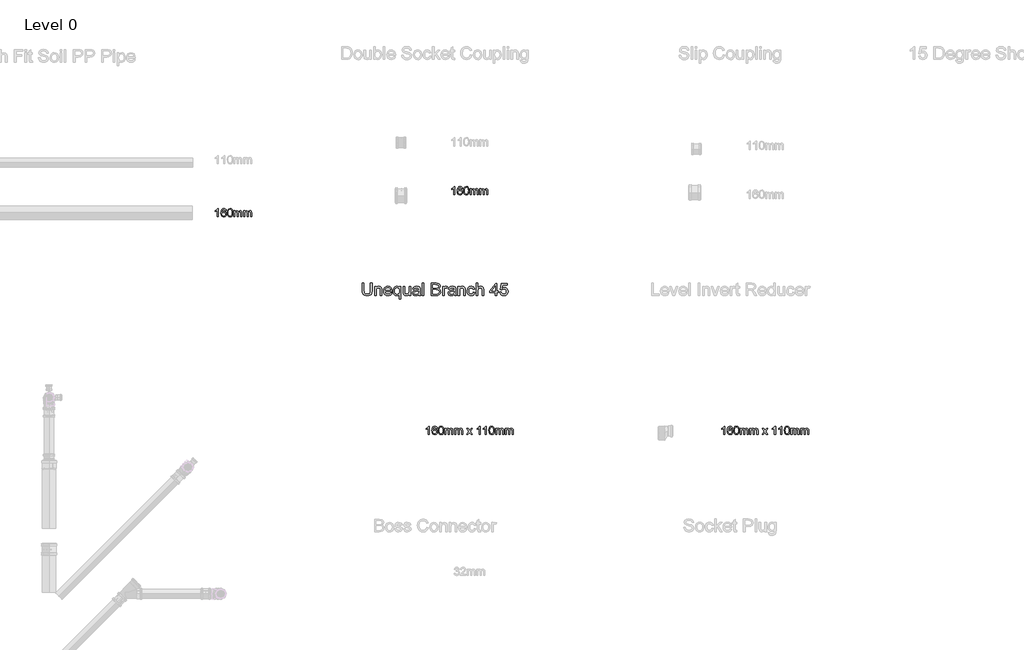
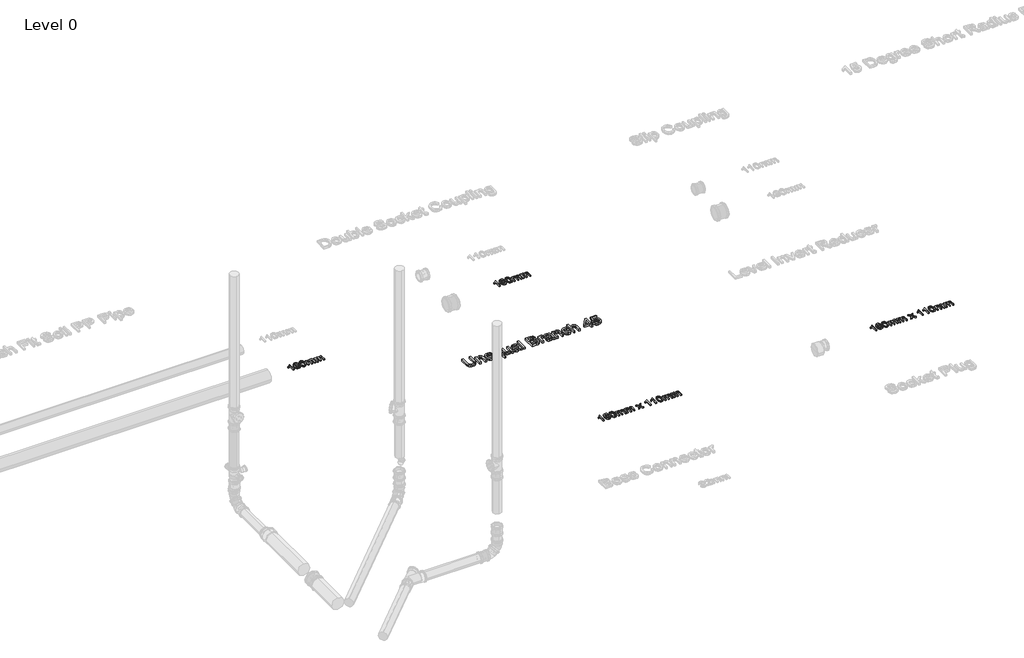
# One storey, part 4 of 15: 5 proxies.
"""IFC4 building model written with IfcOpenShell, lengths in millimetres."""

from ifc_helpers import new_model, si_unit, origin, origin_with_axes, place, context, project, spatial, polyline, outline, extrude, element, save

model = new_model("IFC4")

# Units and contexts
model_context = context("Model", 3, world=origin())
ifc_project = project(units=[si_unit("LENGTHUNIT", "METRE", prefix="MILLI")], contexts=[model_context])

# Site, building, storey
site = spatial("IfcSite", under=ifc_project)
building = spatial("IfcBuilding", under=site)
storey = spatial("IfcBuildingStorey", under=building, Name="Level 0", Elevation=0.0)

# Proxies
placement = place(None, origin())
element("IfcBuildingElementProxy", 1, Name="100mm Arial", ObjectType="100mm Arial", at=placement, inside=storey, context=model_context, shape_type="SweptSolid", body=[
    extrude(outline(polyline([(-23591.7293188, 7438.9614868), (-23604.0370111, 7438.9614868), (-23604.0370111, 7515.692256), (-23615.6956649, 7507.3869676), (-23628.6523957, 7501.1730253), (-23628.6523957, 7512.8076406), (-23610.6115303, 7524.3220637), (-23599.6620111, 7537.4230253), (-23591.7293188, 7537.4230253), (-23591.7293188, 7438.9614868)])), origin_with_axes(), (0.0, 0.0, 1.0), 15.0),
    extrude(outline(polyline([(-23499.4216264, 7511.2691791), (-23511.7293188, 7509.7307176), (-23516.3927803, 7519.9951406), (-23528.7245111, 7525.1153329), (-23539.8302803, 7522.1345637), (-23548.2317226, 7510.9446599), (-23551.7293188, 7489.0095637), (-23540.8759534, 7498.8292753), (-23527.4264341, 7502.0384099), (-23516.0562418, 7499.8449003), (-23506.5129726, 7493.2643714), (-23500.0406168, 7483.2102849), (-23497.8831649, 7470.5961022), (-23501.9456649, 7453.6129291), (-23513.1235495, 7441.5936983), (-23529.2533572, 7437.4230253), (-23543.2166986, 7440.1874483), (-23554.3374918, 7448.4807176), (-23561.6121313, 7463.1201406), (-23564.0370111, 7484.9230253), (-23561.3447034, 7509.4362464), (-23553.2677803, 7526.1970637), (-23542.2401361, 7534.6165349), (-23527.9552803, 7537.4230253), (-23517.1560014, 7535.6862464), (-23508.5081649, 7530.4759099), (-23502.4504726, 7522.2006695), (-23499.4216264, 7511.2691791)]), holes=[polyline([(-23551.7293188, 7470.7884099), (-23548.8807611, 7460.1273522), (-23541.3086457, 7452.3869676), (-23530.2148957, 7449.7307176), (-23522.0929005, 7451.1069195), (-23515.7076841, 7455.2355253), (-23511.5700639, 7461.7259099), (-23510.1908572, 7470.1874483), (-23511.5520351, 7478.3094435), (-23515.6355688, 7484.5023522), (-23530.7197034, 7489.7307176), (-23545.6115303, 7484.5023522), (-23550.1998716, 7478.4596839), (-23551.7293188, 7470.7884099)])]), origin_with_axes(), (0.0, 0.0, 1.0), 15.0),
    extrude(outline(polyline([(-23487.1139341, 7487.3989868), (-23483.4961457, 7515.7283137), (-23472.7509534, 7532.0624483), (-23454.8062418, 7537.4230253), (-23440.4312418, 7534.2499483), (-23430.5033572, 7525.1033137), (-23424.7341264, 7510.536006), (-23422.4985495, 7487.3989868), (-23426.0802803, 7459.1898522), (-23436.7894149, 7442.8196599), (-23454.8062418, 7437.4230253), (-23467.5947034, 7439.7667753), (-23477.3062418, 7446.7980253), (-23484.6620111, 7463.4506695), (-23487.1139341, 7487.3989868)]), holes=[polyline([(-23474.8062418, 7487.4230253), (-23473.3639341, 7468.0630493), (-23469.0370111, 7456.8581214), (-23462.5947034, 7451.5125685), (-23454.8062418, 7449.7307176), (-23447.0177803, 7451.5185781), (-23440.5754726, 7456.8821599), (-23436.2485495, 7468.0930974), (-23434.8062418, 7487.4230253), (-23436.2004726, 7506.3473041), (-23440.3831649, 7517.6393714), (-23446.8134534, 7523.2463426), (-23454.9504726, 7525.1153329), (-23462.6547995, 7523.4686983), (-23468.8447034, 7518.5287945), (-23473.3158572, 7506.5336022), (-23474.8062418, 7487.4230253)])]), origin_with_axes(), (0.0, 0.0, 1.0), 15.0),
    extrude(outline(polyline([(-23408.6523957, 7438.9614868), (-23408.6523957, 7511.2691791), (-23396.3447034, 7511.2691791), (-23396.3447034, 7499.3701406), (-23387.8831649, 7509.1177368), (-23375.8398957, 7512.8076406), (-23363.5081649, 7509.0456214), (-23356.7293188, 7498.504756), (-23347.1259534, 7509.2319195), (-23334.9985495, 7512.8076406), (-23325.7467466, 7511.3202608), (-23318.9047995, 7506.8581214), (-23314.6770351, 7499.3010301), (-23313.2677803, 7488.5287945), (-23313.2677803, 7438.9614868), (-23325.5754726, 7438.9614868), (-23325.5754726, 7483.2403329), (-23326.7172995, 7493.5167753), (-23330.8519149, 7498.5768714), (-23337.8831649, 7500.4999483), (-23349.9865303, 7495.5720637), (-23354.8062418, 7479.7787945), (-23354.8062418, 7438.9614868), (-23367.1139341, 7438.9614868), (-23367.1139341, 7484.6105253), (-23369.9624918, 7496.5336022), (-23379.3014341, 7500.4999483), (-23388.4120111, 7497.8557176), (-23394.4697034, 7490.1153329), (-23396.3447034, 7475.4278329), (-23396.3447034, 7438.9614868), (-23408.6523957, 7438.9614868)])), origin_with_axes(), (0.0, 0.0, 1.0), 15.0),
    extrude(outline(polyline([(-23294.8062418, 7438.9614868), (-23294.8062418, 7511.2691791), (-23282.4985495, 7511.2691791), (-23282.4985495, 7499.3701406), (-23274.0370111, 7509.1177368), (-23261.9937418, 7512.8076406), (-23249.6620111, 7509.0456214), (-23242.8831649, 7498.504756), (-23233.2797995, 7509.2319195), (-23221.1523957, 7512.8076406), (-23211.9005928, 7511.3202608), (-23205.0586457, 7506.8581214), (-23200.8308813, 7499.3010301), (-23199.4216264, 7488.5287945), (-23199.4216264, 7438.9614868), (-23211.7293188, 7438.9614868), (-23211.7293188, 7483.2403329), (-23212.8711457, 7493.5167753), (-23217.0057611, 7498.5768714), (-23224.0370111, 7500.4999483), (-23236.1403764, 7495.5720637), (-23240.960088, 7479.7787945), (-23240.960088, 7438.9614868), (-23253.2677803, 7438.9614868), (-23253.2677803, 7484.6105253), (-23256.116338, 7496.5336022), (-23265.4552803, 7500.4999483), (-23274.5658572, 7497.8557176), (-23280.6235495, 7490.1153329), (-23282.4985495, 7475.4278329), (-23282.4985495, 7438.9614868), (-23294.8062418, 7438.9614868)])), origin_with_axes(), (0.0, 0.0, 1.0), 15.0),
])
element("IfcBuildingElementProxy", 2, Name="100mm Arial", ObjectType="100mm Arial", at=placement, inside=storey, context=model_context, shape_type="SweptSolid", body=[
    extrude(outline(polyline([(-17591.7293188, 4857.7167304), (-17604.0370111, 4857.7167304), (-17604.0370111, 4934.4474996), (-17615.6956649, 4926.1422111), (-17628.6523957, 4919.9282688), (-17628.6523957, 4931.5628842), (-17610.6115303, 4943.0773073), (-17599.6620111, 4956.1782688), (-17591.7293188, 4956.1782688), (-17591.7293188, 4857.7167304)])), origin_with_axes(), (0.0, 0.0, 1.0), 15.0),
    extrude(outline(polyline([(-17499.4216264, 4930.0244227), (-17511.7293188, 4928.4859611), (-17516.3927803, 4938.7503842), (-17528.7245111, 4943.8705765), (-17539.8302803, 4940.8898073), (-17548.2317226, 4929.6999035), (-17551.7293188, 4907.7648073), (-17540.8759534, 4917.5845188), (-17527.4264341, 4920.7936535), (-17516.0562418, 4918.6001438), (-17506.5129726, 4912.019615), (-17500.0406168, 4901.9655285), (-17497.8831649, 4889.3513458), (-17501.9456649, 4872.3681727), (-17513.1235495, 4860.3489419), (-17529.2533572, 4856.1782688), (-17543.2166986, 4858.9426919), (-17554.3374918, 4867.2359611), (-17561.6121313, 4881.8753842), (-17564.0370111, 4903.6782688), (-17561.3447034, 4928.19149), (-17553.2677803, 4944.9523073), (-17542.2401361, 4953.3717785), (-17527.9552803, 4956.1782688), (-17517.1560014, 4954.44149), (-17508.5081649, 4949.2311535), (-17502.4504726, 4940.9559131), (-17499.4216264, 4930.0244227)]), holes=[polyline([(-17551.7293188, 4889.5436535), (-17548.8807611, 4878.8825958), (-17541.3086457, 4871.1422111), (-17530.2148957, 4868.4859611), (-17522.0929005, 4869.8621631), (-17515.7076841, 4873.9907688), (-17511.5700639, 4880.4811535), (-17510.1908572, 4888.9426919), (-17511.5520351, 4897.0646871), (-17515.6355688, 4903.2575958), (-17530.7197034, 4908.4859611), (-17545.6115303, 4903.2575958), (-17550.1998716, 4897.2149275), (-17551.7293188, 4889.5436535)])]), origin_with_axes(), (0.0, 0.0, 1.0), 15.0),
    extrude(outline(polyline([(-17487.1139341, 4906.1542304), (-17483.4961457, 4934.4835573), (-17472.7509534, 4950.8176919), (-17454.8062418, 4956.1782688), (-17440.4312418, 4953.0051919), (-17430.5033572, 4943.8585573), (-17424.7341264, 4929.2912496), (-17422.4985495, 4906.1542304), (-17426.0802803, 4877.9450958), (-17436.7894149, 4861.5749035), (-17454.8062418, 4856.1782688), (-17467.5947034, 4858.5220188), (-17477.3062418, 4865.5532688), (-17484.6620111, 4882.2059131), (-17487.1139341, 4906.1542304)]), holes=[polyline([(-17474.8062418, 4906.1782688), (-17473.3639341, 4886.8182929), (-17469.0370111, 4875.613365), (-17462.5947034, 4870.2678121), (-17454.8062418, 4868.4859611), (-17447.0177803, 4870.2738217), (-17440.5754726, 4875.6374035), (-17436.2485495, 4886.848341), (-17434.8062418, 4906.1782688), (-17436.2004726, 4925.1025477), (-17440.3831649, 4936.394615), (-17446.8134534, 4942.0015861), (-17454.9504726, 4943.8705765), (-17462.6547995, 4942.2239419), (-17468.8447034, 4937.2840381), (-17473.3158572, 4925.2888458), (-17474.8062418, 4906.1782688)])]), origin_with_axes(), (0.0, 0.0, 1.0), 15.0),
    extrude(outline(polyline([(-17408.6523957, 4857.7167304), (-17408.6523957, 4930.0244227), (-17396.3447034, 4930.0244227), (-17396.3447034, 4918.1253842), (-17387.8831649, 4927.8729804), (-17375.8398957, 4931.5628842), (-17363.5081649, 4927.800865), (-17356.7293188, 4917.2599996), (-17347.1259534, 4927.9871631), (-17334.9985495, 4931.5628842), (-17325.7467466, 4930.0755044), (-17318.9047995, 4925.613365), (-17314.6770351, 4918.0562736), (-17313.2677803, 4907.2840381), (-17313.2677803, 4857.7167304), (-17325.5754726, 4857.7167304), (-17325.5754726, 4901.9955765), (-17326.7172995, 4912.2720188), (-17330.8519149, 4917.332115), (-17337.8831649, 4919.2551919), (-17349.9865303, 4914.3273073), (-17354.8062418, 4898.5340381), (-17354.8062418, 4857.7167304), (-17367.1139341, 4857.7167304), (-17367.1139341, 4903.3657688), (-17369.9624918, 4915.2888458), (-17379.3014341, 4919.2551919), (-17388.4120111, 4916.6109611), (-17394.4697034, 4908.8705765), (-17396.3447034, 4894.1830765), (-17396.3447034, 4857.7167304), (-17408.6523957, 4857.7167304)])), origin_with_axes(), (0.0, 0.0, 1.0), 15.0),
    extrude(outline(polyline([(-17294.8062418, 4857.7167304), (-17294.8062418, 4930.0244227), (-17282.4985495, 4930.0244227), (-17282.4985495, 4918.1253842), (-17274.0370111, 4927.8729804), (-17261.9937418, 4931.5628842), (-17249.6620111, 4927.800865), (-17242.8831649, 4917.2599996), (-17233.2797995, 4927.9871631), (-17221.1523957, 4931.5628842), (-17211.9005928, 4930.0755044), (-17205.0586457, 4925.613365), (-17200.8308813, 4918.0562736), (-17199.4216264, 4907.2840381), (-17199.4216264, 4857.7167304), (-17211.7293188, 4857.7167304), (-17211.7293188, 4901.9955765), (-17212.8711457, 4912.2720188), (-17217.0057611, 4917.332115), (-17224.0370111, 4919.2551919), (-17236.1403764, 4914.3273073), (-17240.960088, 4898.5340381), (-17240.960088, 4857.7167304), (-17253.2677803, 4857.7167304), (-17253.2677803, 4903.3657688), (-17256.116338, 4915.2888458), (-17265.4552803, 4919.2551919), (-17274.5658572, 4916.6109611), (-17280.6235495, 4908.8705765), (-17282.4985495, 4894.1830765), (-17282.4985495, 4857.7167304), (-17294.8062418, 4857.7167304)])), origin_with_axes(), (0.0, 0.0, 1.0), 15.0),
    extrude(outline(polyline([(-17150.1908572, 4857.7167304), (-17123.8927803, 4894.0628842), (-17148.6523957, 4930.0244227), (-17133.8447034, 4930.0244227), (-17121.897588, 4912.7167304), (-17116.3206649, 4904.5436535), (-17111.4889341, 4911.2263458), (-17097.8831649, 4930.0244227), (-17083.0754726, 4930.0244227), (-17109.085088, 4894.0628842), (-17084.0370111, 4857.7167304), (-17098.8447034, 4857.7167304), (-17113.9168188, 4879.5676919), (-17116.6812418, 4883.5580765), (-17135.3831649, 4857.7167304), (-17150.1908572, 4857.7167304)])), origin_with_axes(), (0.0, 0.0, 1.0), 15.0),
    extrude(outline(polyline([(-16991.7293188, 4857.7167304), (-17004.0370111, 4857.7167304), (-17004.0370111, 4934.4474996), (-17015.6956649, 4926.1422111), (-17028.6523957, 4919.9282688), (-17028.6523957, 4931.5628842), (-17010.6115303, 4943.0773073), (-16999.6620111, 4956.1782688), (-16991.7293188, 4956.1782688), (-16991.7293188, 4857.7167304)])), origin_with_axes(), (0.0, 0.0, 1.0), 15.0),
    extrude(outline(polyline([(-16916.3447034, 4857.7167304), (-16928.6523957, 4857.7167304), (-16928.6523957, 4934.4474996), (-16940.3110495, 4926.1422111), (-16953.2677803, 4919.9282688), (-16953.2677803, 4931.5628842), (-16935.2269149, 4943.0773073), (-16924.2773957, 4956.1782688), (-16916.3447034, 4956.1782688), (-16916.3447034, 4857.7167304)])), origin_with_axes(), (0.0, 0.0, 1.0), 15.0),
    extrude(outline(polyline([(-16887.1139341, 4906.1542304), (-16883.4961457, 4934.4835573), (-16872.7509534, 4950.8176919), (-16854.8062418, 4956.1782688), (-16840.4312418, 4953.0051919), (-16830.5033572, 4943.8585573), (-16824.7341264, 4929.2912496), (-16822.4985495, 4906.1542304), (-16826.0802803, 4877.9450958), (-16836.7894149, 4861.5749035), (-16854.8062418, 4856.1782688), (-16867.5947034, 4858.5220188), (-16877.3062418, 4865.5532688), (-16884.6620111, 4882.2059131), (-16887.1139341, 4906.1542304)]), holes=[polyline([(-16874.8062418, 4906.1782688), (-16873.3639341, 4886.8182929), (-16869.0370111, 4875.613365), (-16862.5947034, 4870.2678121), (-16854.8062418, 4868.4859611), (-16847.0177803, 4870.2738217), (-16840.5754726, 4875.6374035), (-16836.2485495, 4886.848341), (-16834.8062418, 4906.1782688), (-16836.2004726, 4925.1025477), (-16840.3831649, 4936.394615), (-16846.8134534, 4942.0015861), (-16854.9504726, 4943.8705765), (-16862.6547995, 4942.2239419), (-16868.8447034, 4937.2840381), (-16873.3158572, 4925.2888458), (-16874.8062418, 4906.1782688)])]), origin_with_axes(), (0.0, 0.0, 1.0), 15.0),
    extrude(outline(polyline([(-16808.6523957, 4857.7167304), (-16808.6523957, 4930.0244227), (-16796.3447034, 4930.0244227), (-16796.3447034, 4918.1253842), (-16787.8831649, 4927.8729804), (-16775.8398957, 4931.5628842), (-16763.5081649, 4927.800865), (-16756.7293188, 4917.2599996), (-16747.1259534, 4927.9871631), (-16734.9985495, 4931.5628842), (-16725.7467466, 4930.0755044), (-16718.9047995, 4925.613365), (-16714.6770351, 4918.0562736), (-16713.2677803, 4907.2840381), (-16713.2677803, 4857.7167304), (-16725.5754726, 4857.7167304), (-16725.5754726, 4901.9955765), (-16726.7172995, 4912.2720188), (-16730.8519149, 4917.332115), (-16737.8831649, 4919.2551919), (-16749.9865303, 4914.3273073), (-16754.8062418, 4898.5340381), (-16754.8062418, 4857.7167304), (-16767.1139341, 4857.7167304), (-16767.1139341, 4903.3657688), (-16769.9624918, 4915.2888458), (-16779.3014341, 4919.2551919), (-16788.4120111, 4916.6109611), (-16794.4697034, 4908.8705765), (-16796.3447034, 4894.1830765), (-16796.3447034, 4857.7167304), (-16808.6523957, 4857.7167304)])), origin_with_axes(), (0.0, 0.0, 1.0), 15.0),
    extrude(outline(polyline([(-16694.8062418, 4857.7167304), (-16694.8062418, 4930.0244227), (-16682.4985495, 4930.0244227), (-16682.4985495, 4918.1253842), (-16674.0370111, 4927.8729804), (-16661.9937418, 4931.5628842), (-16649.6620111, 4927.800865), (-16642.8831649, 4917.2599996), (-16633.2797995, 4927.9871631), (-16621.1523957, 4931.5628842), (-16611.9005928, 4930.0755044), (-16605.0586457, 4925.613365), (-16600.8308813, 4918.0562736), (-16599.4216264, 4907.2840381), (-16599.4216264, 4857.7167304), (-16611.7293188, 4857.7167304), (-16611.7293188, 4901.9955765), (-16612.8711457, 4912.2720188), (-16617.0057611, 4917.332115), (-16624.0370111, 4919.2551919), (-16636.1403764, 4914.3273073), (-16640.960088, 4898.5340381), (-16640.960088, 4857.7167304), (-16653.2677803, 4857.7167304), (-16653.2677803, 4903.3657688), (-16656.116338, 4915.2888458), (-16665.4552803, 4919.2551919), (-16674.5658572, 4916.6109611), (-16680.6235495, 4908.8705765), (-16682.4985495, 4894.1830765), (-16682.4985495, 4857.7167304), (-16694.8062418, 4857.7167304)])), origin_with_axes(), (0.0, 0.0, 1.0), 15.0),
])
element("IfcBuildingElementProxy", 3, Name="100mm Arial", ObjectType="100mm Arial", at=placement, inside=storey, context=model_context, shape_type="SweptSolid", body=[
    extrude(outline(polyline([(-21091.7293188, 4857.7167304), (-21104.0370111, 4857.7167304), (-21104.0370111, 4934.4474996), (-21115.6956649, 4926.1422111), (-21128.6523957, 4919.9282688), (-21128.6523957, 4931.5628842), (-21110.6115303, 4943.0773073), (-21099.6620111, 4956.1782688), (-21091.7293188, 4956.1782688), (-21091.7293188, 4857.7167304)])), origin_with_axes(), (0.0, 0.0, 1.0), 15.0),
    extrude(outline(polyline([(-20999.4216264, 4930.0244227), (-21011.7293188, 4928.4859611), (-21016.3927803, 4938.7503842), (-21028.7245111, 4943.8705765), (-21039.8302803, 4940.8898073), (-21048.2317226, 4929.6999035), (-21051.7293188, 4907.7648073), (-21040.8759534, 4917.5845188), (-21027.4264341, 4920.7936535), (-21016.0562418, 4918.6001438), (-21006.5129726, 4912.019615), (-21000.0406168, 4901.9655285), (-20997.8831649, 4889.3513458), (-21001.9456649, 4872.3681727), (-21013.1235495, 4860.3489419), (-21029.2533572, 4856.1782688), (-21043.2166986, 4858.9426919), (-21054.3374918, 4867.2359611), (-21061.6121313, 4881.8753842), (-21064.0370111, 4903.6782688), (-21061.3447034, 4928.19149), (-21053.2677803, 4944.9523073), (-21042.2401361, 4953.3717785), (-21027.9552803, 4956.1782688), (-21017.1560014, 4954.44149), (-21008.5081649, 4949.2311535), (-21002.4504726, 4940.9559131), (-20999.4216264, 4930.0244227)]), holes=[polyline([(-21051.7293188, 4889.5436535), (-21048.8807611, 4878.8825958), (-21041.3086457, 4871.1422111), (-21030.2148957, 4868.4859611), (-21022.0929005, 4869.8621631), (-21015.7076841, 4873.9907688), (-21011.5700639, 4880.4811535), (-21010.1908572, 4888.9426919), (-21011.5520351, 4897.0646871), (-21015.6355688, 4903.2575958), (-21030.7197034, 4908.4859611), (-21045.6115303, 4903.2575958), (-21050.1998716, 4897.2149275), (-21051.7293188, 4889.5436535)])]), origin_with_axes(), (0.0, 0.0, 1.0), 15.0),
    extrude(outline(polyline([(-20987.1139341, 4906.1542304), (-20983.4961457, 4934.4835573), (-20972.7509534, 4950.8176919), (-20954.8062418, 4956.1782688), (-20940.4312418, 4953.0051919), (-20930.5033572, 4943.8585573), (-20924.7341264, 4929.2912496), (-20922.4985495, 4906.1542304), (-20926.0802803, 4877.9450958), (-20936.7894149, 4861.5749035), (-20954.8062418, 4856.1782688), (-20967.5947034, 4858.5220188), (-20977.3062418, 4865.5532688), (-20984.6620111, 4882.2059131), (-20987.1139341, 4906.1542304)]), holes=[polyline([(-20974.8062418, 4906.1782688), (-20973.3639341, 4886.8182929), (-20969.0370111, 4875.613365), (-20962.5947034, 4870.2678121), (-20954.8062418, 4868.4859611), (-20947.0177803, 4870.2738217), (-20940.5754726, 4875.6374035), (-20936.2485495, 4886.848341), (-20934.8062418, 4906.1782688), (-20936.2004726, 4925.1025477), (-20940.3831649, 4936.394615), (-20946.8134534, 4942.0015861), (-20954.9504726, 4943.8705765), (-20962.6547995, 4942.2239419), (-20968.8447034, 4937.2840381), (-20973.3158572, 4925.2888458), (-20974.8062418, 4906.1782688)])]), origin_with_axes(), (0.0, 0.0, 1.0), 15.0),
    extrude(outline(polyline([(-20908.6523957, 4857.7167304), (-20908.6523957, 4930.0244227), (-20896.3447034, 4930.0244227), (-20896.3447034, 4918.1253842), (-20887.8831649, 4927.8729804), (-20875.8398957, 4931.5628842), (-20863.5081649, 4927.800865), (-20856.7293188, 4917.2599996), (-20847.1259534, 4927.9871631), (-20834.9985495, 4931.5628842), (-20825.7467466, 4930.0755044), (-20818.9047995, 4925.613365), (-20814.6770351, 4918.0562736), (-20813.2677803, 4907.2840381), (-20813.2677803, 4857.7167304), (-20825.5754726, 4857.7167304), (-20825.5754726, 4901.9955765), (-20826.7172995, 4912.2720188), (-20830.8519149, 4917.332115), (-20837.8831649, 4919.2551919), (-20849.9865303, 4914.3273073), (-20854.8062418, 4898.5340381), (-20854.8062418, 4857.7167304), (-20867.1139341, 4857.7167304), (-20867.1139341, 4903.3657688), (-20869.9624918, 4915.2888458), (-20879.3014341, 4919.2551919), (-20888.4120111, 4916.6109611), (-20894.4697034, 4908.8705765), (-20896.3447034, 4894.1830765), (-20896.3447034, 4857.7167304), (-20908.6523957, 4857.7167304)])), origin_with_axes(), (0.0, 0.0, 1.0), 15.0),
    extrude(outline(polyline([(-20794.8062418, 4857.7167304), (-20794.8062418, 4930.0244227), (-20782.4985495, 4930.0244227), (-20782.4985495, 4918.1253842), (-20774.0370111, 4927.8729804), (-20761.9937418, 4931.5628842), (-20749.6620111, 4927.800865), (-20742.8831649, 4917.2599996), (-20733.2797995, 4927.9871631), (-20721.1523957, 4931.5628842), (-20711.9005928, 4930.0755044), (-20705.0586457, 4925.613365), (-20700.8308813, 4918.0562736), (-20699.4216264, 4907.2840381), (-20699.4216264, 4857.7167304), (-20711.7293188, 4857.7167304), (-20711.7293188, 4901.9955765), (-20712.8711457, 4912.2720188), (-20717.0057611, 4917.332115), (-20724.0370111, 4919.2551919), (-20736.1403764, 4914.3273073), (-20740.960088, 4898.5340381), (-20740.960088, 4857.7167304), (-20753.2677803, 4857.7167304), (-20753.2677803, 4903.3657688), (-20756.116338, 4915.2888458), (-20765.4552803, 4919.2551919), (-20774.5658572, 4916.6109611), (-20780.6235495, 4908.8705765), (-20782.4985495, 4894.1830765), (-20782.4985495, 4857.7167304), (-20794.8062418, 4857.7167304)])), origin_with_axes(), (0.0, 0.0, 1.0), 15.0),
    extrude(outline(polyline([(-20650.1908572, 4857.7167304), (-20623.8927803, 4894.0628842), (-20648.6523957, 4930.0244227), (-20633.8447034, 4930.0244227), (-20621.897588, 4912.7167304), (-20616.3206649, 4904.5436535), (-20611.4889341, 4911.2263458), (-20597.8831649, 4930.0244227), (-20583.0754726, 4930.0244227), (-20609.085088, 4894.0628842), (-20584.0370111, 4857.7167304), (-20598.8447034, 4857.7167304), (-20613.9168188, 4879.5676919), (-20616.6812418, 4883.5580765), (-20635.3831649, 4857.7167304), (-20650.1908572, 4857.7167304)])), origin_with_axes(), (0.0, 0.0, 1.0), 15.0),
    extrude(outline(polyline([(-20491.7293188, 4857.7167304), (-20504.0370111, 4857.7167304), (-20504.0370111, 4934.4474996), (-20515.6956649, 4926.1422111), (-20528.6523957, 4919.9282688), (-20528.6523957, 4931.5628842), (-20510.6115303, 4943.0773073), (-20499.6620111, 4956.1782688), (-20491.7293188, 4956.1782688), (-20491.7293188, 4857.7167304)])), origin_with_axes(), (0.0, 0.0, 1.0), 15.0),
    extrude(outline(polyline([(-20416.3447034, 4857.7167304), (-20428.6523957, 4857.7167304), (-20428.6523957, 4934.4474996), (-20440.3110495, 4926.1422111), (-20453.2677803, 4919.9282688), (-20453.2677803, 4931.5628842), (-20435.2269149, 4943.0773073), (-20424.2773957, 4956.1782688), (-20416.3447034, 4956.1782688), (-20416.3447034, 4857.7167304)])), origin_with_axes(), (0.0, 0.0, 1.0), 15.0),
    extrude(outline(polyline([(-20387.1139341, 4906.1542304), (-20383.4961457, 4934.4835573), (-20372.7509534, 4950.8176919), (-20354.8062418, 4956.1782688), (-20340.4312418, 4953.0051919), (-20330.5033572, 4943.8585573), (-20324.7341264, 4929.2912496), (-20322.4985495, 4906.1542304), (-20326.0802803, 4877.9450958), (-20336.7894149, 4861.5749035), (-20354.8062418, 4856.1782688), (-20367.5947034, 4858.5220188), (-20377.3062418, 4865.5532688), (-20384.6620111, 4882.2059131), (-20387.1139341, 4906.1542304)]), holes=[polyline([(-20374.8062418, 4906.1782688), (-20373.3639341, 4886.8182929), (-20369.0370111, 4875.613365), (-20362.5947034, 4870.2678121), (-20354.8062418, 4868.4859611), (-20347.0177803, 4870.2738217), (-20340.5754726, 4875.6374035), (-20336.2485495, 4886.848341), (-20334.8062418, 4906.1782688), (-20336.2004726, 4925.1025477), (-20340.3831649, 4936.394615), (-20346.8134534, 4942.0015861), (-20354.9504726, 4943.8705765), (-20362.6547995, 4942.2239419), (-20368.8447034, 4937.2840381), (-20373.3158572, 4925.2888458), (-20374.8062418, 4906.1782688)])]), origin_with_axes(), (0.0, 0.0, 1.0), 15.0),
    extrude(outline(polyline([(-20308.6523957, 4857.7167304), (-20308.6523957, 4930.0244227), (-20296.3447034, 4930.0244227), (-20296.3447034, 4918.1253842), (-20287.8831649, 4927.8729804), (-20275.8398957, 4931.5628842), (-20263.5081649, 4927.800865), (-20256.7293188, 4917.2599996), (-20247.1259534, 4927.9871631), (-20234.9985495, 4931.5628842), (-20225.7467466, 4930.0755044), (-20218.9047995, 4925.613365), (-20214.6770351, 4918.0562736), (-20213.2677803, 4907.2840381), (-20213.2677803, 4857.7167304), (-20225.5754726, 4857.7167304), (-20225.5754726, 4901.9955765), (-20226.7172995, 4912.2720188), (-20230.8519149, 4917.332115), (-20237.8831649, 4919.2551919), (-20249.9865303, 4914.3273073), (-20254.8062418, 4898.5340381), (-20254.8062418, 4857.7167304), (-20267.1139341, 4857.7167304), (-20267.1139341, 4903.3657688), (-20269.9624918, 4915.2888458), (-20279.3014341, 4919.2551919), (-20288.4120111, 4916.6109611), (-20294.4697034, 4908.8705765), (-20296.3447034, 4894.1830765), (-20296.3447034, 4857.7167304), (-20308.6523957, 4857.7167304)])), origin_with_axes(), (0.0, 0.0, 1.0), 15.0),
    extrude(outline(polyline([(-20194.8062418, 4857.7167304), (-20194.8062418, 4930.0244227), (-20182.4985495, 4930.0244227), (-20182.4985495, 4918.1253842), (-20174.0370111, 4927.8729804), (-20161.9937418, 4931.5628842), (-20149.6620111, 4927.800865), (-20142.8831649, 4917.2599996), (-20133.2797995, 4927.9871631), (-20121.1523957, 4931.5628842), (-20111.9005928, 4930.0755044), (-20105.0586457, 4925.613365), (-20100.8308813, 4918.0562736), (-20099.4216264, 4907.2840381), (-20099.4216264, 4857.7167304), (-20111.7293188, 4857.7167304), (-20111.7293188, 4901.9955765), (-20112.8711457, 4912.2720188), (-20117.0057611, 4917.332115), (-20124.0370111, 4919.2551919), (-20136.1403764, 4914.3273073), (-20140.960088, 4898.5340381), (-20140.960088, 4857.7167304), (-20153.2677803, 4857.7167304), (-20153.2677803, 4903.3657688), (-20156.116338, 4915.2888458), (-20165.4552803, 4919.2551919), (-20174.5658572, 4916.6109611), (-20180.6235495, 4908.8705765), (-20182.4985495, 4894.1830765), (-20182.4985495, 4857.7167304), (-20194.8062418, 4857.7167304)])), origin_with_axes(), (0.0, 0.0, 1.0), 15.0),
])
element("IfcBuildingElementProxy", 4, Name="100mm Arial", ObjectType="100mm Arial", at=placement, inside=storey, context=model_context, shape_type="SweptSolid", body=[
    extrude(outline(polyline([(-20791.7293188, 7699.7032019), (-20804.0370111, 7699.7032019), (-20804.0370111, 7776.4339711), (-20815.6956649, 7768.1286827), (-20828.6523957, 7761.9147404), (-20828.6523957, 7773.5493557), (-20810.6115303, 7785.0637788), (-20799.6620111, 7798.1647404), (-20791.7293188, 7798.1647404), (-20791.7293188, 7699.7032019)])), origin_with_axes(), (0.0, 0.0, 1.0), 15.0),
    extrude(outline(polyline([(-20699.4216264, 7772.0108942), (-20711.7293188, 7770.4724327), (-20716.3927803, 7780.7368557), (-20728.7245111, 7785.857048), (-20739.8302803, 7782.8762788), (-20748.2317226, 7771.686375), (-20751.7293188, 7749.7512788), (-20740.8759534, 7759.5709904), (-20727.4264341, 7762.780125), (-20716.0562418, 7760.5866154), (-20706.5129726, 7754.0060865), (-20700.0406168, 7743.952), (-20697.8831649, 7731.3378173), (-20701.9456649, 7714.3546442), (-20713.1235495, 7702.3354134), (-20729.2533572, 7698.1647404), (-20743.2166986, 7700.9291634), (-20754.3374918, 7709.2224327), (-20761.6121313, 7723.8618557), (-20764.0370111, 7745.6647404), (-20761.3447034, 7770.1779615), (-20753.2677803, 7786.9387788), (-20742.2401361, 7795.35825), (-20727.9552803, 7798.1647404), (-20717.1560014, 7796.4279615), (-20708.5081649, 7791.217625), (-20702.4504726, 7782.9423846), (-20699.4216264, 7772.0108942)]), holes=[polyline([(-20751.7293188, 7731.530125), (-20748.8807611, 7720.8690673), (-20741.3086457, 7713.1286827), (-20730.2148957, 7710.4724327), (-20722.0929005, 7711.8486346), (-20715.7076841, 7715.9772404), (-20711.5700639, 7722.467625), (-20710.1908572, 7730.9291634), (-20711.5520351, 7739.0511586), (-20715.6355688, 7745.2440673), (-20730.7197034, 7750.4724327), (-20745.6115303, 7745.2440673), (-20750.1998716, 7739.201399), (-20751.7293188, 7731.530125)])]), origin_with_axes(), (0.0, 0.0, 1.0), 15.0),
    extrude(outline(polyline([(-20687.1139341, 7748.1407019), (-20683.4961457, 7776.4700288), (-20672.7509534, 7792.8041634), (-20654.8062418, 7798.1647404), (-20640.4312418, 7794.9916634), (-20630.5033572, 7785.8450288), (-20624.7341264, 7771.2777211), (-20622.4985495, 7748.1407019), (-20626.0802803, 7719.9315673), (-20636.7894149, 7703.561375), (-20654.8062418, 7698.1647404), (-20667.5947034, 7700.5084904), (-20677.3062418, 7707.5397404), (-20684.6620111, 7724.1923846), (-20687.1139341, 7748.1407019)]), holes=[polyline([(-20674.8062418, 7748.1647404), (-20673.3639341, 7728.8047644), (-20669.0370111, 7717.5998365), (-20662.5947034, 7712.2542836), (-20654.8062418, 7710.4724327), (-20647.0177803, 7712.2602932), (-20640.5754726, 7717.623875), (-20636.2485495, 7728.8348125), (-20634.8062418, 7748.1647404), (-20636.2004726, 7767.0890192), (-20640.3831649, 7778.3810865), (-20646.8134534, 7783.9880577), (-20654.9504726, 7785.857048), (-20662.6547995, 7784.2104134), (-20668.8447034, 7779.2705096), (-20673.3158572, 7767.2753173), (-20674.8062418, 7748.1647404)])]), origin_with_axes(), (0.0, 0.0, 1.0), 15.0),
    extrude(outline(polyline([(-20608.6523957, 7699.7032019), (-20608.6523957, 7772.0108942), (-20596.3447034, 7772.0108942), (-20596.3447034, 7760.1118557), (-20587.8831649, 7769.8594519), (-20575.8398957, 7773.5493557), (-20563.5081649, 7769.7873365), (-20556.7293188, 7759.2464711), (-20547.1259534, 7769.9736346), (-20534.9985495, 7773.5493557), (-20525.7467466, 7772.0619759), (-20518.9047995, 7767.5998365), (-20514.6770351, 7760.0427452), (-20513.2677803, 7749.2705096), (-20513.2677803, 7699.7032019), (-20525.5754726, 7699.7032019), (-20525.5754726, 7743.982048), (-20526.7172995, 7754.2584904), (-20530.8519149, 7759.3185865), (-20537.8831649, 7761.2416634), (-20549.9865303, 7756.3137788), (-20554.8062418, 7740.5205096), (-20554.8062418, 7699.7032019), (-20567.1139341, 7699.7032019), (-20567.1139341, 7745.3522404), (-20569.9624918, 7757.2753173), (-20579.3014341, 7761.2416634), (-20588.4120111, 7758.5974327), (-20594.4697034, 7750.857048), (-20596.3447034, 7736.169548), (-20596.3447034, 7699.7032019), (-20608.6523957, 7699.7032019)])), origin_with_axes(), (0.0, 0.0, 1.0), 15.0),
    extrude(outline(polyline([(-20494.8062418, 7699.7032019), (-20494.8062418, 7772.0108942), (-20482.4985495, 7772.0108942), (-20482.4985495, 7760.1118557), (-20474.0370111, 7769.8594519), (-20461.9937418, 7773.5493557), (-20449.6620111, 7769.7873365), (-20442.8831649, 7759.2464711), (-20433.2797995, 7769.9736346), (-20421.1523957, 7773.5493557), (-20411.9005928, 7772.0619759), (-20405.0586457, 7767.5998365), (-20400.8308813, 7760.0427452), (-20399.4216264, 7749.2705096), (-20399.4216264, 7699.7032019), (-20411.7293188, 7699.7032019), (-20411.7293188, 7743.982048), (-20412.8711457, 7754.2584904), (-20417.0057611, 7759.3185865), (-20424.0370111, 7761.2416634), (-20436.1403764, 7756.3137788), (-20440.960088, 7740.5205096), (-20440.960088, 7699.7032019), (-20453.2677803, 7699.7032019), (-20453.2677803, 7745.3522404), (-20456.116338, 7757.2753173), (-20465.4552803, 7761.2416634), (-20474.5658572, 7758.5974327), (-20480.6235495, 7750.857048), (-20482.4985495, 7736.169548), (-20482.4985495, 7699.7032019), (-20494.8062418, 7699.7032019)])), origin_with_axes(), (0.0, 0.0, 1.0), 15.0),
])
element("IfcBuildingElementProxy", 5, Name="150mm Arial", ObjectType="150mm Arial", at=placement, inside=storey, context=model_context, shape_type="SweptSolid", body=[
    extrude(outline(polyline([(-21790.6049127, 6652.9068296), (-21772.1433743, 6652.9068296), (-21772.1433743, 6567.7025027), (-21777.1553935, 6532.3839931), (-21784.1776291, 6520.5300267), (-21795.2202973, 6511.1099546), (-21810.3104416, 6504.9576109), (-21829.475105, 6502.9068296), (-21848.2205978, 6504.6916854), (-21863.2070762, 6510.0462527), (-21874.4390473, 6518.7857359), (-21881.9210185, 6530.7253392), (-21886.1262469, 6546.7394618), (-21887.5279897, 6567.7025027), (-21887.5279897, 6652.9068296), (-21869.0664512, 6652.9068296), (-21869.0664512, 6568.3515411), (-21865.4246243, 6540.2085123), (-21860.475706, 6532.2082118), (-21852.912605, 6526.2722142), (-21831.2058743, 6521.3683681), (-21812.428831, 6523.7932479), (-21799.943855, 6531.0678873), (-21792.9396483, 6545.2385604), (-21790.6049127, 6568.3515411), (-21790.6049127, 6652.9068296)])), origin_with_axes(), (0.0, 0.0, 1.0), 25.0),
    extrude(outline(polyline([(-21742.1433743, 6505.2145219), (-21742.1433743, 6613.6760604), (-21723.6818358, 6613.6760604), (-21723.6818358, 6598.5318296), (-21709.5652493, 6611.6207719), (-21690.2924127, 6615.9837527), (-21672.8585185, 6612.4681277), (-21660.95948, 6603.2373585), (-21655.4246243, 6589.6616373), (-21654.4510666, 6571.8130796), (-21654.4510666, 6505.2145219), (-21672.912605, 6505.2145219), (-21672.912605, 6569.3250988), (-21675.0400089, 6585.6592335), (-21682.5580377, 6594.2950508), (-21695.2323166, 6597.5222142), (-21706.0451171, 6595.7103152), (-21715.2623647, 6590.2746181), (-21721.576968, 6579.7728152), (-21723.6818358, 6562.7625988), (-21723.6818358, 6505.2145219), (-21742.1433743, 6505.2145219)])), origin_with_axes(), (0.0, 0.0, 1.0), 25.0),
    extrude(outline(polyline([(-21553.1289512, 6537.5222142), (-21535.0279897, 6535.2145219), (-21541.5499247, 6521.5756998), (-21551.9570762, 6511.3803873), (-21566.015069, 6505.025219), (-21583.4895281, 6502.9068296), (-21605.1511868, 6506.5621782), (-21621.818855, 6517.5282238), (-21632.4468598, 6535.0928272), (-21635.9895281, 6558.5438488), (-21632.4108022, 6582.7836325), (-21621.6746243, 6600.9116373), (-21605.2323166, 6612.2157238), (-21584.5352012, 6615.9837527), (-21564.4826171, 6612.2247383), (-21548.45948, 6600.947695), (-21537.9531699, 6582.8557479), (-21534.4510666, 6558.6520219), (-21534.5592397, 6553.6760604), (-21617.5279897, 6553.6760604), (-21614.3323767, 6539.8569498), (-21606.9089993, 6529.697695), (-21596.1953574, 6523.4506998), (-21583.1289512, 6521.3683681), (-21565.0279897, 6525.2265411), (-21553.1289512, 6537.5222142)]), holes=[polyline([(-21617.5279897, 6572.1375988), (-21552.912605, 6572.1375988), (-21555.4096002, 6581.8912046), (-21560.304432, 6588.8683681), (-21571.0676531, 6595.3587527), (-21584.6073166, 6597.5222142), (-21597.0517276, 6595.7959522), (-21607.3416916, 6590.6171661), (-21614.4946363, 6582.5447503), (-21617.5279897, 6572.1375988)])]), origin_with_axes(), (0.0, 0.0, 1.0), 25.0),
    extrude(outline(polyline([(-21449.0664512, 6463.6760604), (-21449.0664512, 6519.9981758), (-21460.7852012, 6507.7746181), (-21476.7948166, 6502.9068296), (-21494.3458983, 6506.7514811), (-21509.2827973, 6518.2854354), (-21519.5051531, 6536.5171061), (-21522.912605, 6560.4549065), (-21517.5039512, 6589.697695), (-21510.8783502, 6601.0738969), (-21501.818855, 6609.3130796), (-21491.0466195, 6614.3160844), (-21479.2827973, 6615.9837527), (-21462.1193358, 6610.8094738), (-21449.0664512, 6595.2866373), (-21449.0664512, 6613.6760604), (-21430.6049127, 6613.6760604), (-21430.6049127, 6463.6760604), (-21449.0664512, 6463.6760604)]), holes=[polyline([(-21504.4510666, 6559.4452911), (-21502.3732421, 6542.7866373), (-21496.1397685, 6530.8875988), (-21487.0036507, 6523.7481758), (-21476.2178935, 6521.3683681), (-21465.8828574, 6523.6309883), (-21457.0892877, 6530.4188488), (-21451.0721603, 6541.8311085), (-21449.0664512, 6557.9669258), (-21451.1803334, 6575.2160243), (-21457.52198, 6587.58832), (-21466.7121844, 6595.0387407), (-21477.3717397, 6597.5222142), (-21487.8329776, 6595.2100147), (-21496.5724608, 6588.2734161), (-21502.4814151, 6576.4419859), (-21504.4510666, 6559.4452911)])]), origin_with_axes(), (0.0, 0.0, 1.0), 25.0),
    extrude(outline(polyline([(-21333.6818358, 6505.2145219), (-21333.6818358, 6523.8563488), (-21348.1409704, 6508.1442094), (-21366.9991435, 6502.9068296), (-21384.3609223, 6506.5847142), (-21396.3320762, 6515.8154835), (-21401.8308743, 6529.4092335), (-21402.912605, 6546.572695), (-21402.912605, 6613.6760604), (-21384.4510666, 6613.6760604), (-21384.4510666, 6555.2625988), (-21383.3332781, 6536.4404835), (-21376.0315954, 6525.3888008), (-21362.2755858, 6521.3683681), (-21346.8609223, 6525.478945), (-21336.6746243, 6536.6748585), (-21333.6818358, 6557.2457719), (-21333.6818358, 6613.6760604), (-21315.2202973, 6613.6760604), (-21315.2202973, 6505.2145219), (-21333.6818358, 6505.2145219)])), origin_with_axes(), (0.0, 0.0, 1.0), 25.0),
    extrude(outline(polyline([(-21220.6049127, 6519.0606758), (-21238.507557, 6506.5486565), (-21258.2852012, 6502.9068296), (-21273.7133863, 6505.0973344), (-21285.0940954, 6511.6688488), (-21292.1118238, 6521.6478152), (-21294.4510666, 6534.0606758), (-21290.9174127, 6548.6640411), (-21281.632557, 6559.2650027), (-21268.7058743, 6565.322695), (-21252.7323166, 6568.0991373), (-21220.7130858, 6574.4452911), (-21220.6049127, 6578.5558681), (-21221.8759464, 6586.7950508), (-21225.6890473, 6592.1856758), (-21234.2166916, 6596.1880796), (-21246.0977012, 6597.5222142), (-21264.7755858, 6593.9705315), (-21273.6818358, 6581.3683681), (-21292.1433743, 6583.6760604), (-21284.1565954, 6601.7049065), (-21268.0748647, 6612.2698104), (-21243.7178935, 6615.9837527), (-21221.3440954, 6612.7025027), (-21208.7058743, 6604.46332), (-21203.0448166, 6591.9332719), (-21202.1433743, 6575.7794258), (-21202.1433743, 6552.8106758), (-21201.2058743, 6520.7373585), (-21197.5279897, 6505.2145219), (-21215.9895281, 6505.2145219), (-21220.6049127, 6519.0606758)]), holes=[polyline([(-21220.6049127, 6555.9837527), (-21250.3885666, 6550.322695), (-21266.27198, 6547.3299065), (-21273.4654897, 6542.4621181), (-21275.9895281, 6535.3587527), (-21270.49073, 6525.3707719), (-21254.3549127, 6521.3683681), (-21235.6770281, 6525.7854354), (-21223.6337589, 6536.4765411), (-21220.7130858, 6550.7553873), (-21220.6049127, 6555.9837527)])]), origin_with_axes(), (0.0, 0.0, 1.0), 25.0),
    extrude(outline(polyline([(-21176.7587589, 6505.2145219), (-21176.7587589, 6652.9068296), (-21158.2972204, 6652.9068296), (-21158.2972204, 6505.2145219), (-21176.7587589, 6505.2145219)])), origin_with_axes(), (0.0, 0.0, 1.0), 25.0),
    extrude(outline(polyline([(-21070.6049127, 6505.2145219), (-21070.6049127, 6652.9068296), (-21014.2467397, 6652.9068296), (-20986.6445762, 6648.5618777), (-20977.3687348, 6643.049558), (-20970.3464993, 6635.2025027), (-20964.4510666, 6616.3082719), (-20969.4089993, 6599.0546661), (-20984.3909704, 6585.9837527), (-20973.9297324, 6580.5210123), (-20966.1998647, 6572.2097142), (-20961.4267276, 6561.5997383), (-20959.835682, 6549.2409642), (-20964.1806339, 6529.3912046), (-20974.943855, 6515.2565892), (-20991.007557, 6507.7565892), (-21014.679432, 6505.2145219), (-21070.6049127, 6505.2145219)]), holes=[polyline([(-21052.1433743, 6523.6760604), (-21014.2827973, 6523.6760604), (-21000.5808743, 6524.3972142), (-20988.9883262, 6528.4176469), (-20981.3080377, 6536.6207719), (-20978.2972204, 6549.0606758), (-20981.8308743, 6563.4116373), (-20993.2791916, 6571.9753392), (-21016.085682, 6574.4452911), (-21052.1433743, 6574.4452911), (-21052.1433743, 6523.6760604)]), polyline([(-21052.1433743, 6592.9068296), (-21018.429432, 6592.9068296), (-20998.741932, 6594.4933681), (-20986.89698, 6601.3263008), (-20982.912605, 6613.3515411), (-20986.6265473, 6625.3948104), (-20997.2635666, 6632.5162046), (-21020.9895281, 6634.4452911), (-21052.1433743, 6634.4452911), (-21052.1433743, 6592.9068296)])]), origin_with_axes(), (0.0, 0.0, 1.0), 25.0),
    extrude(outline(polyline([(-20936.7587589, 6505.2145219), (-20936.7587589, 6613.6760604), (-20920.6049127, 6613.6760604), (-20920.6049127, 6597.6303873), (-20909.1385666, 6612.4140411), (-20897.600105, 6615.9837527), (-20879.0664512, 6610.2866373), (-20885.2323166, 6593.7361565), (-20898.2130858, 6597.5222142), (-20908.6517877, 6593.8803873), (-20915.304432, 6583.7842335), (-20918.2972204, 6562.2217335), (-20918.2972204, 6505.2145219), (-20936.7587589, 6505.2145219)])), origin_with_axes(), (0.0, 0.0, 1.0), 25.0),
    extrude(outline(polyline([(-20798.2972204, 6519.0606758), (-20816.1998647, 6506.5486565), (-20835.9775089, 6502.9068296), (-20851.405694, 6505.0973344), (-20862.7864031, 6511.6688488), (-20869.8041315, 6521.6478152), (-20872.1433743, 6534.0606758), (-20868.6097204, 6548.6640411), (-20859.3248647, 6559.2650027), (-20846.398182, 6565.322695), (-20830.4246243, 6568.0991373), (-20798.4053935, 6574.4452911), (-20798.2972204, 6578.5558681), (-20799.5682541, 6586.7950508), (-20803.381355, 6592.1856758), (-20811.9089993, 6596.1880796), (-20823.7900089, 6597.5222142), (-20842.4678935, 6593.9705315), (-20851.3741435, 6581.3683681), (-20869.835682, 6583.6760604), (-20861.8489031, 6601.7049065), (-20845.7671723, 6612.2698104), (-20821.4102012, 6615.9837527), (-20799.0364031, 6612.7025027), (-20786.398182, 6604.46332), (-20780.7371243, 6591.9332719), (-20779.835682, 6575.7794258), (-20779.835682, 6552.8106758), (-20778.898182, 6520.7373585), (-20775.2202973, 6505.2145219), (-20793.6818358, 6505.2145219), (-20798.2972204, 6519.0606758)]), holes=[polyline([(-20798.2972204, 6555.9837527), (-20828.0808743, 6550.322695), (-20843.9642877, 6547.3299065), (-20851.1577973, 6542.4621181), (-20853.6818358, 6535.3587527), (-20848.1830377, 6525.3707719), (-20832.0472204, 6521.3683681), (-20813.3693358, 6525.7854354), (-20801.3260666, 6536.4765411), (-20798.4053935, 6550.7553873), (-20798.2972204, 6555.9837527)])]), origin_with_axes(), (0.0, 0.0, 1.0), 25.0),
    extrude(outline(polyline([(-20754.4510666, 6505.2145219), (-20754.4510666, 6613.6760604), (-20735.9895281, 6613.6760604), (-20735.9895281, 6598.5318296), (-20721.8729416, 6611.6207719), (-20702.600105, 6615.9837527), (-20685.1662108, 6612.4681277), (-20673.2671723, 6603.2373585), (-20667.7323166, 6589.6616373), (-20666.7587589, 6571.8130796), (-20666.7587589, 6505.2145219), (-20685.2202973, 6505.2145219), (-20685.2202973, 6569.3250988), (-20687.3477012, 6585.6592335), (-20694.86573, 6594.2950508), (-20707.5400089, 6597.5222142), (-20718.3528094, 6595.7103152), (-20727.570057, 6590.2746181), (-20733.8846603, 6579.7728152), (-20735.9895281, 6562.7625988), (-20735.9895281, 6505.2145219), (-20754.4510666, 6505.2145219)])), origin_with_axes(), (0.0, 0.0, 1.0), 25.0),
    extrude(outline(polyline([(-20572.1433743, 6544.4452911), (-20553.6818358, 6542.1375988), (-20558.8290714, 6525.7178272), (-20568.5015473, 6513.3094738), (-20581.788807, 6505.5074907), (-20597.7803935, 6502.9068296), (-20617.4183142, 6506.5351349), (-20632.7743839, 6517.4200508), (-20642.6857421, 6535.0838128), (-20645.9895281, 6559.0486565), (-20640.3464993, 6589.7157238), (-20633.225105, 6601.2136205), (-20623.14698, 6609.4212527), (-20611.0901892, 6614.3431277), (-20598.0327973, 6615.9837527), (-20582.4333382, 6613.7301469), (-20569.9618839, 6606.9693296), (-20561.015069, 6596.0618777), (-20555.9895281, 6581.3683681), (-20574.4510666, 6579.0606758), (-20583.0147685, 6592.8888008), (-20597.8885666, 6597.5222142), (-20609.8191555, 6595.2415652), (-20619.288807, 6588.3996181), (-20625.468194, 6576.6267815), (-20627.5279897, 6559.5534642), (-20625.5132661, 6542.2502791), (-20619.4690954, 6530.4368777), (-20610.170718, 6523.6354955), (-20598.3933743, 6521.3683681), (-20588.8335786, 6522.7836325), (-20580.9955377, 6527.0294258), (-20575.2939151, 6534.213921), (-20572.1433743, 6544.4452911)])), origin_with_axes(), (0.0, 0.0, 1.0), 25.0),
    extrude(outline(polyline([(-20537.5279897, 6505.2145219), (-20537.5279897, 6652.9068296), (-20519.0664512, 6652.9068296), (-20519.0664512, 6598.603945), (-20504.6704175, 6611.6388008), (-20486.9390473, 6615.9837527), (-20466.2058743, 6611.2421661), (-20453.6217397, 6598.135195), (-20449.835682, 6573.8683681), (-20449.835682, 6505.2145219), (-20468.2972204, 6505.2145219), (-20468.2972204, 6571.9573104), (-20469.7665714, 6583.5138008), (-20474.1746243, 6591.4284642), (-20481.2779897, 6595.9987767), (-20490.8332781, 6597.5222142), (-20505.95948, 6593.4116373), (-20516.0556339, 6582.2698104), (-20519.0664512, 6562.8347142), (-20519.0664512, 6505.2145219), (-20537.5279897, 6505.2145219)])), origin_with_axes(), (0.0, 0.0, 1.0), 25.0),
    extrude(outline(polyline([(-20311.3741435, 6505.2145219), (-20311.3741435, 6539.8299065), (-20378.2972204, 6539.8299065), (-20378.2972204, 6558.291445), (-20306.7587589, 6650.5991373), (-20292.912605, 6650.5991373), (-20292.912605, 6558.291445), (-20274.4510666, 6558.291445), (-20274.4510666, 6539.8299065), (-20292.912605, 6539.8299065), (-20292.912605, 6505.2145219), (-20311.3741435, 6505.2145219)]), holes=[polyline([(-20311.3741435, 6558.291445), (-20311.3741435, 6615.3347142), (-20355.5808743, 6558.291445), (-20311.3741435, 6558.291445)])]), origin_with_axes(), (0.0, 0.0, 1.0), 25.0),
    extrude(outline(polyline([(-20258.2972204, 6544.4452911), (-20239.835682, 6546.7529835), (-20236.4462589, 6535.6697503), (-20230.5327973, 6527.7325508), (-20222.1223406, 6522.9594137), (-20211.241932, 6521.3683681), (-20198.0087589, 6523.5814089), (-20188.0928935, 6530.2205315), (-20181.8999848, 6540.5195099), (-20179.835682, 6553.7121181), (-20181.7692757, 6566.1339931), (-20187.570057, 6575.635195), (-20197.2830978, 6581.665844), (-20210.9534704, 6583.6760604), (-20227.1614031, 6580.4669258), (-20237.5279897, 6572.1375988), (-20255.9895281, 6574.4452911), (-20239.835682, 6650.5991373), (-20168.2972204, 6650.5991373), (-20168.2972204, 6632.1375988), (-20224.9077973, 6632.1375988), (-20232.804432, 6591.4645219), (-20219.616331, 6599.4693296), (-20205.7972204, 6602.1375988), (-20188.5481219, 6598.8293056), (-20174.2287108, 6588.9044258), (-20164.5877853, 6573.7782238), (-20161.3741435, 6554.8659642), (-20164.2677733, 6536.4044258), (-20172.9486627, 6520.6111565), (-20189.5712589, 6507.3329113), (-20211.3140473, 6502.9068296), (-20229.4465594, 6505.7508801), (-20243.8921723, 6514.2830315), (-20253.7945161, 6527.5116974), (-20258.2972204, 6544.4452911)])), origin_with_axes(), (0.0, 0.0, 1.0), 25.0),
])

save(model, "model.ifc")
